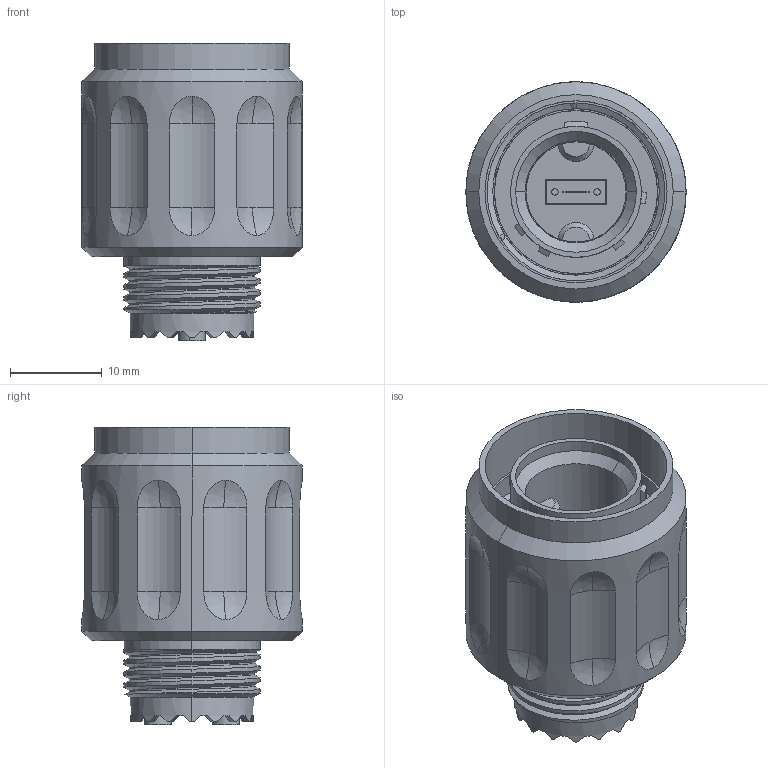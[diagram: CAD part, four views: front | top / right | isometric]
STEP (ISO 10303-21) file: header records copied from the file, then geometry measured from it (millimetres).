
FILE_DESCRIPTION (( 'STEP AP214' ), '1' );
FILE_NAME ('Q38MT-PGX-11XX-X.STEP', '2025-08-27T14:29:11', ( '' ), ( '' ), 'SwSTEP 2.0', 'SolidWorks 2024', '' );
FILE_SCHEMA (( 'AUTOMOTIVE_DESIGN' ));
Length unit declared in the file: inch
Products named in the file (1): Q38MT-PGX-11XX-X
Bounding box: 24 x 24 x 32.36 mm (x, y, z)
Volume: 6927.6 mm3; surface area: 6427.4 mm2
Topology: 1 solids, 3 shells, 430 faces, 1117 edges, 717 vertices
Faces by surface type: cylinder 169, plane 159, cone 54, sphere 40, bspline 8
Entity records: 15551 total; most frequent: CARTESIAN_POINT 5479, ORIENTED_EDGE 2218, DIRECTION 2028, EDGE_CURVE 1109, AXIS2_PLACEMENT_3D 816, VERTEX_POINT 717, EDGE_LOOP 470, FACE_OUTER_BOUND 430
